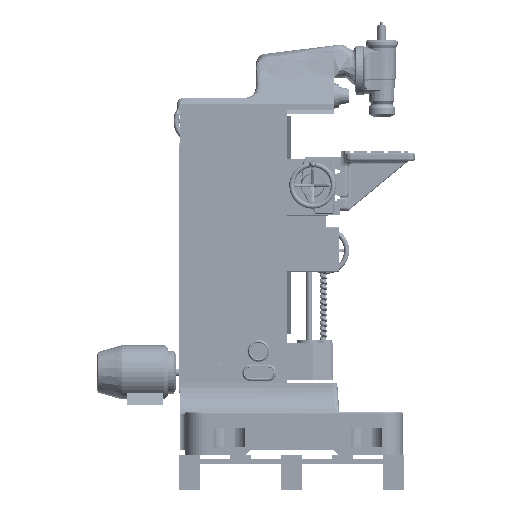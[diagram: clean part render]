
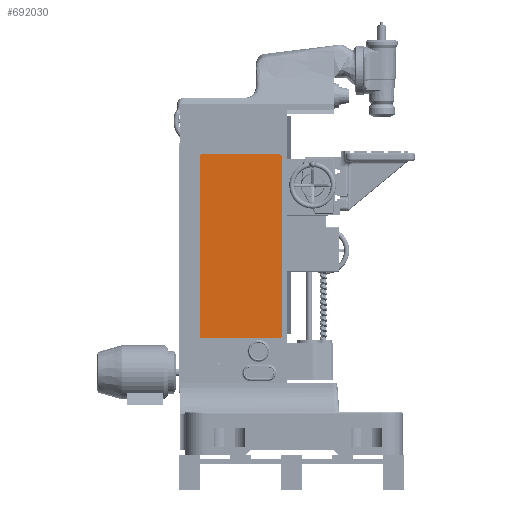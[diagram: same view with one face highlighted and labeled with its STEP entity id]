
A CAD part, left-side view. The second image highlights one B-rep face of the part: STEP entity #692030.
In plain terms, the highlighted planar face has unit normal (-1, 0, 0).
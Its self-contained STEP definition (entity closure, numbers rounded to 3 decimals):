
#6482 = CARTESIAN_POINT ( 'NONE',  ( -516.047, 260.661, 1239.455 ) ) ;
#8650 = PLANE ( 'NONE',  #695739 ) ;
#8981 = ORIENTED_EDGE ( 'NONE', *, *, #511857, .F. ) ;
#10738 = ORIENTED_EDGE ( 'NONE', *, *, #560994, .T. ) ;
#13352 = CARTESIAN_POINT ( 'NONE',  ( -516.047, 548.536, 588.261 ) ) ;
#13389 = AXIS2_PLACEMENT_3D ( 'NONE', #202693, #84420, #435525 ) ;
#15760 = DIRECTION ( 'NONE',  ( 0., 0., 1. ) ) ;
#19240 = EDGE_CURVE ( 'NONE', #611265, #58477, #546138, .T. ) ;
#25442 = EDGE_CURVE ( 'NONE', #297073, #168358, #509470, .T. ) ;
#39587 = VECTOR ( 'NONE', #15760, 1000. ) ;
#42347 = VECTOR ( 'NONE', #498205, 1000. ) ;
#42827 = CARTESIAN_POINT ( 'NONE',  ( -516.047, 269.5, 1230.616 ) ) ;
#54091 = CIRCLE ( 'NONE', #286139, 5. ) ;
#56463 = VERTEX_POINT ( 'NONE', #415429 ) ;
#58477 = VERTEX_POINT ( 'NONE', #111495 ) ;
#63616 = DIRECTION ( 'NONE',  ( 1., 0., 0. ) ) ;
#66372 = ORIENTED_EDGE ( 'NONE', *, *, #421289, .T. ) ;
#84420 = DIRECTION ( 'NONE',  ( 1., 0., 0. ) ) ;
#93649 = CARTESIAN_POINT ( 'NONE',  ( -516.047, 550., 586.796 ) ) ;
#94088 = DIRECTION ( 'NONE',  ( 0., 0.707, -0.707 ) ) ;
#97570 = ORIENTED_EDGE ( 'NONE', *, *, #19240, .F. ) ;
#103493 = DIRECTION ( 'NONE',  ( 0., -0.707, -0.707 ) ) ;
#111495 = CARTESIAN_POINT ( 'NONE',  ( -516.047, 262., 586.796 ) ) ;
#126512 = LINE ( 'NONE', #592096, #39587 ) ;
#128376 = CARTESIAN_POINT ( 'NONE',  ( -516.047, 269.5, 1230.616 ) ) ;
#129625 = DIRECTION ( 'NONE',  ( 1., 0., 0. ) ) ;
#144161 = DIRECTION ( 'NONE',  ( 0., 0., -1. ) ) ;
#168308 = CARTESIAN_POINT ( 'NONE',  ( -516.047, 262., 591.796 ) ) ;
#168358 = VERTEX_POINT ( 'NONE', #690438 ) ;
#185989 = VERTEX_POINT ( 'NONE', #275278 ) ;
#202302 = DIRECTION ( 'NONE',  ( 1., 0., 0. ) ) ;
#202693 = CARTESIAN_POINT ( 'NONE',  ( -516.047, 537.5, 1230.616 ) ) ;
#208615 = CARTESIAN_POINT ( 'NONE',  ( -516.047, 545., 591.796 ) ) ;
#219921 = CARTESIAN_POINT ( 'NONE',  ( -516.047, 545., 586.796 ) ) ;
#221931 = DIRECTION ( 'NONE',  ( 0., 0.707, -0.707 ) ) ;
#223197 = CIRCLE ( 'NONE', #247673, 5. ) ;
#239256 = AXIS2_PLACEMENT_3D ( 'NONE', #427686, #202302, #431396 ) ;
#247673 = AXIS2_PLACEMENT_3D ( 'NONE', #340226, #630205, #221931 ) ;
#250977 = EDGE_CURVE ( 'NONE', #297073, #634257, #325824, .T. ) ;
#262375 = LINE ( 'NONE', #319676, #397854 ) ;
#270726 = EDGE_LOOP ( 'NONE', ( #8981, #10738, #407050, #336961, #719731, #442247, #476784, #603949, #459187, #415698, #66372, #97570 ) ) ;
#275278 = CARTESIAN_POINT ( 'NONE',  ( -516.047, 550., 1230.616 ) ) ;
#276005 = VERTEX_POINT ( 'NONE', #13352 ) ;
#278450 = EDGE_CURVE ( 'NONE', #185989, #641314, #262375, .T. ) ;
#279401 = EDGE_CURVE ( 'NONE', #634257, #56463, #396706, .T. ) ;
#284255 = LINE ( 'NONE', #93649, #596542 ) ;
#286139 = AXIS2_PLACEMENT_3D ( 'NONE', #208615, #670414, #94088 ) ;
#294472 = VERTEX_POINT ( 'NONE', #219921 ) ;
#294930 = CARTESIAN_POINT ( 'NONE',  ( -516.047, 403.5, 914.956 ) ) ;
#297073 = VERTEX_POINT ( 'NONE', #687443 ) ;
#319676 = CARTESIAN_POINT ( 'NONE',  ( -516.047, 550., 426.673 ) ) ;
#325824 = CIRCLE ( 'NONE', #752441, 12.5 ) ;
#336961 = ORIENTED_EDGE ( 'NONE', *, *, #250977, .F. ) ;
#340226 = CARTESIAN_POINT ( 'NONE',  ( -516.047, 545., 591.796 ) ) ;
#362445 = DIRECTION ( 'NONE',  ( 0., -0.707, -0.707 ) ) ;
#394954 = CARTESIAN_POINT ( 'NONE',  ( -516.047, 550., 1243.116 ) ) ;
#396706 = CIRCLE ( 'NONE', #713266, 12.5 ) ;
#397854 = VECTOR ( 'NONE', #144161, 1000. ) ;
#407050 = ORIENTED_EDGE ( 'NONE', *, *, #279401, .F. ) ;
#412171 = EDGE_CURVE ( 'NONE', #586474, #168358, #604742, .T. ) ;
#415429 = CARTESIAN_POINT ( 'NONE',  ( -516.047, 257., 1230.616 ) ) ;
#415698 = ORIENTED_EDGE ( 'NONE', *, *, #444287, .F. ) ;
#421289 = EDGE_CURVE ( 'NONE', #294472, #58477, #284255, .T. ) ;
#422689 = EDGE_CURVE ( 'NONE', #185989, #586474, #574008, .T. ) ;
#427686 = CARTESIAN_POINT ( 'NONE',  ( -516.047, 537.5, 1230.616 ) ) ;
#431396 = DIRECTION ( 'NONE',  ( 0., 0.707, 0.707 ) ) ;
#435525 = DIRECTION ( 'NONE',  ( 0., 0.707, 0.707 ) ) ;
#442247 = ORIENTED_EDGE ( 'NONE', *, *, #412171, .F. ) ;
#444287 = EDGE_CURVE ( 'NONE', #294472, #276005, #223197, .T. ) ;
#459187 = ORIENTED_EDGE ( 'NONE', *, *, #745127, .F. ) ;
#465414 = AXIS2_PLACEMENT_3D ( 'NONE', #168308, #748427, #103493 ) ;
#476784 = ORIENTED_EDGE ( 'NONE', *, *, #422689, .F. ) ;
#476999 = CARTESIAN_POINT ( 'NONE',  ( -516.047, 262., 591.796 ) ) ;
#484772 = VERTEX_POINT ( 'NONE', #714538 ) ;
#498205 = DIRECTION ( 'NONE',  ( 0., 1., 0. ) ) ;
#509470 = LINE ( 'NONE', #394954, #42347 ) ;
#511857 = EDGE_CURVE ( 'NONE', #484772, #611265, #611305, .T. ) ;
#513298 = DIRECTION ( 'NONE',  ( 0., -1., 0. ) ) ;
#521967 = CARTESIAN_POINT ( 'NONE',  ( -516.047, 550., 591.796 ) ) ;
#531534 = DIRECTION ( 'NONE',  ( -1., 0., 0. ) ) ;
#536207 = CARTESIAN_POINT ( 'NONE',  ( -516.047, 546.339, 1239.455 ) ) ;
#546138 = CIRCLE ( 'NONE', #668116, 5. ) ;
#554388 = DIRECTION ( 'NONE',  ( 1., 0., 0. ) ) ;
#560994 = EDGE_CURVE ( 'NONE', #484772, #56463, #126512, .T. ) ;
#574008 = CIRCLE ( 'NONE', #13389, 12.5 ) ;
#585009 = FACE_OUTER_BOUND ( 'NONE', #270726, .T. ) ;
#586474 = VERTEX_POINT ( 'NONE', #536207 ) ;
#592096 = CARTESIAN_POINT ( 'NONE',  ( -516.047, 257., 1243.116 ) ) ;
#596542 = VECTOR ( 'NONE', #513298, 1000. ) ;
#597730 = DIRECTION ( 'NONE',  ( 0., -0.707, 0.707 ) ) ;
#603949 = ORIENTED_EDGE ( 'NONE', *, *, #278450, .T. ) ;
#604742 = CIRCLE ( 'NONE', #239256, 12.5 ) ;
#611265 = VERTEX_POINT ( 'NONE', #680897 ) ;
#611305 = CIRCLE ( 'NONE', #465414, 5. ) ;
#630205 = DIRECTION ( 'NONE',  ( 1., 0., 0. ) ) ;
#634257 = VERTEX_POINT ( 'NONE', #6482 ) ;
#641314 = VERTEX_POINT ( 'NONE', #521967 ) ;
#668116 = AXIS2_PLACEMENT_3D ( 'NONE', #476999, #129625, #362445 ) ;
#670414 = DIRECTION ( 'NONE',  ( 1., 0., 0. ) ) ;
#680159 = DIRECTION ( 'NONE',  ( 0., -0.707, 0.707 ) ) ;
#680897 = CARTESIAN_POINT ( 'NONE',  ( -516.047, 258.464, 588.261 ) ) ;
#687443 = CARTESIAN_POINT ( 'NONE',  ( -516.047, 269.5, 1243.116 ) ) ;
#690438 = CARTESIAN_POINT ( 'NONE',  ( -516.047, 537.5, 1243.116 ) ) ;
#692030 = ADVANCED_FACE ( 'NONE', ( #585009 ), #8650, .T. ) ;
#695739 = AXIS2_PLACEMENT_3D ( 'NONE', #294930, #531534, #695818 ) ;
#695818 = DIRECTION ( 'NONE',  ( 0., 0., 1. ) ) ;
#713266 = AXIS2_PLACEMENT_3D ( 'NONE', #128376, #63616, #597730 ) ;
#714538 = CARTESIAN_POINT ( 'NONE',  ( -516.047, 257., 591.796 ) ) ;
#719731 = ORIENTED_EDGE ( 'NONE', *, *, #25442, .T. ) ;
#745127 = EDGE_CURVE ( 'NONE', #276005, #641314, #54091, .T. ) ;
#748427 = DIRECTION ( 'NONE',  ( 1., 0., 0. ) ) ;
#752441 = AXIS2_PLACEMENT_3D ( 'NONE', #42827, #554388, #680159 ) ;
